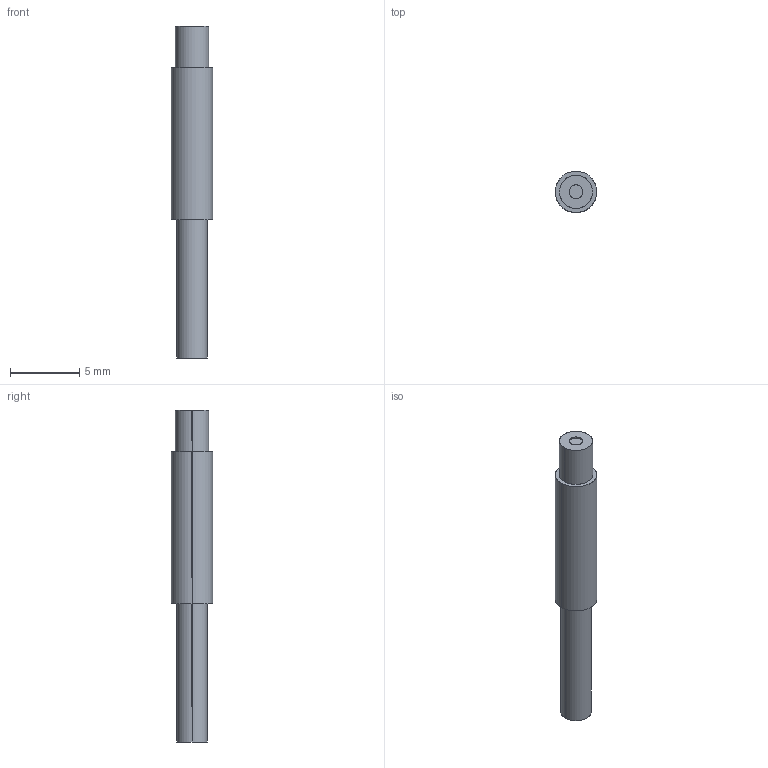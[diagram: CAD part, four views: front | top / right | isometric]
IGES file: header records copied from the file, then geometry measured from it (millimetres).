
Start section: SolidWorks IGES file using analytic representation for surfaces
Global section: file name: C:\Documents and Settings\CAD53\デスクトップ\センサー系\041413.IGS; native system: SolidWorks 2006 by SolidWorks Corporation; preprocessor: SolidWorks 2006 by SolidWorks Corporation; author: CAD53; date: 071015.125555; units: millimetre
Bounding box: 3 x 3 x 24 mm (x, y, z)
Surface area: 209.9 mm2 (no closed solid volume)
Topology: 0 solids, 0 shells, 13 faces, 256 edges, 256 vertices
Faces by surface type: revolution 8, bspline 5
